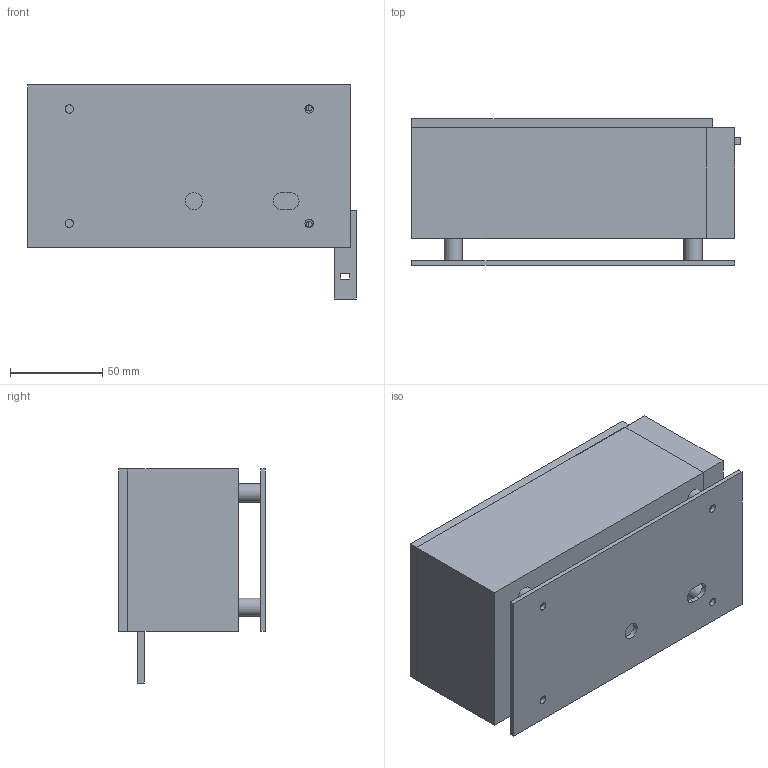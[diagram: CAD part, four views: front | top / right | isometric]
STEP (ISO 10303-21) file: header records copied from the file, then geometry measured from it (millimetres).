
FILE_DESCRIPTION(('FreeCAD Model'),'2;1');
FILE_NAME('Open CASCADE Shape Model','2026-09-11T14:18:25',( '' ),( '' ),'Open CASCADE STEP processor 7.8','FreeCAD','Unknown');
FILE_SCHEMA(('AUTOMOTIVE_DESIGN { 1 0 10303 214 1 1 1 1 }'));
Length unit declared in the file: millimetre
Products named in the file (1): Open CASCADE STEP translator 7.8 29
Bounding box: 178 x 79.5 x 116 mm (x, y, z)
Volume: 573262.9 mm3; surface area: 244716.5 mm2
Topology: 16 solids, 16 shells, 235 faces, 576 edges, 386 vertices
Faces by surface type: plane 167, cylinder 62, cone 6
Full cylindrical faces by diameter (mm): 2.4 x4, 3.2 x10, 3.6 x12, 4 x10, 4.5 x12, 9.2 x1, 10 x4, 12.2 x1, 12.5 x2
Entity records: 7108 total; most frequent: DIRECTION 1214, CARTESIAN_POINT 1198, ORIENTED_EDGE 1152, EDGE_CURVE 576, LINE 410, VECTOR 410, AXIS2_PLACEMENT_3D 402, VERTEX_POINT 386
